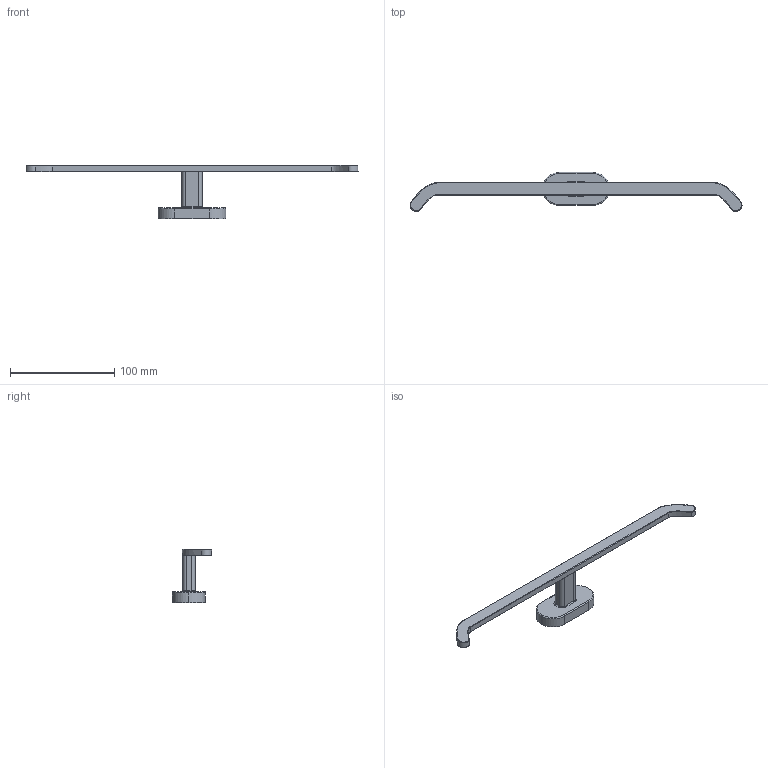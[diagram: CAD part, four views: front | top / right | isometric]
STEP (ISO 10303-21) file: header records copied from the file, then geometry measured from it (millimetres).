
FILE_DESCRIPTION (( 'STEP AP203' ), '1' );
FILE_NAME ('PL18808-ikili tuvalet kagitligi.STEP', '2018-08-27T10:53:37', ( '' ), ( '' ), 'SwSTEP 2.0', 'SolidWorks 2018', '' );
FILE_SCHEMA (( 'CONFIG_CONTROL_DESIGN' ));
Length unit declared in the file: millimetre
Products named in the file (1): PL18808-ikili tuvalet kagitligi
Bounding box: 317.88 x 37.46 x 50.9 mm (x, y, z)
Volume: 50537.5 mm3; surface area: 18659.7 mm2
Topology: 1 solids, 1 shells, 56 faces, 126 edges, 74 vertices
Faces by surface type: cylinder 18, bspline 18, plane 12, torus 8
Entity records: 3189 total; most frequent: CARTESIAN_POINT 1957, ORIENTED_EDGE 252, DIRECTION 222, EDGE_CURVE 126, AXIS2_PLACEMENT_3D 87, VERTEX_POINT 74, EDGE_LOOP 58, FACE_OUTER_BOUND 56
